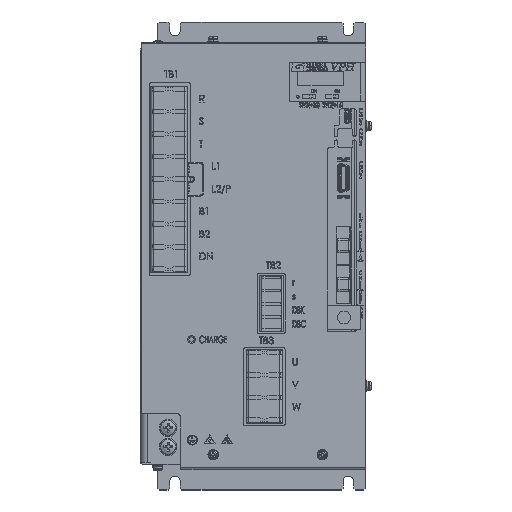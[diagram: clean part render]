
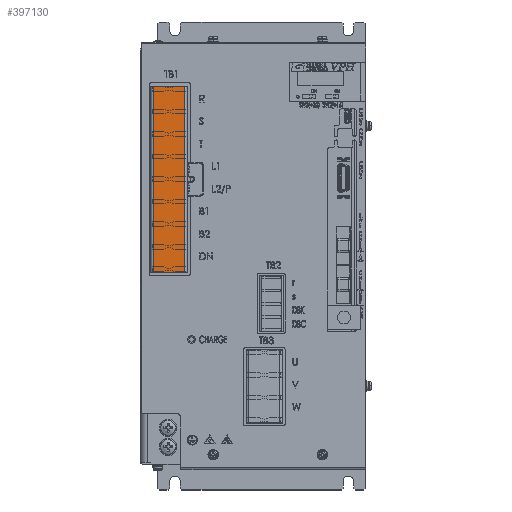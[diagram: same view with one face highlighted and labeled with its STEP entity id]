
A CAD part, top view. The second image highlights one B-rep face of the part: STEP entity #397130.
In plain terms, the highlighted planar face has unit normal (0, 0, 1).
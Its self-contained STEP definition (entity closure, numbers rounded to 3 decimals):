
#2342 = CARTESIAN_POINT ( 'NONE',  ( -67.929, 107.754, 475.8 ) ) ;
#15656 = LINE ( 'NONE', #72575, #339163 ) ;
#17015 = EDGE_LOOP ( 'NONE', ( #196374, #284597, #344088, #53413 ) ) ;
#37791 = LINE ( 'NONE', #314208, #355437 ) ;
#38941 = CARTESIAN_POINT ( 'NONE',  ( -49.829, 0.354, 475.8 ) ) ;
#47235 = CARTESIAN_POINT ( 'NONE',  ( -49.829, 107.754, 475.8 ) ) ;
#53413 = ORIENTED_EDGE ( 'NONE', *, *, #191755, .T. ) ;
#54861 = VERTEX_POINT ( 'NONE', #2342 ) ;
#72575 = CARTESIAN_POINT ( 'NONE',  ( -67.929, 0.354, 475.8 ) ) ;
#107780 = DIRECTION ( 'NONE',  ( 0., -1., 0. ) ) ;
#116207 = DIRECTION ( 'NONE',  ( 0., -1., 0. ) ) ;
#133486 = CARTESIAN_POINT ( 'NONE',  ( -49.829, 107.754, 475.8 ) ) ;
#146597 = LINE ( 'NONE', #147244, #410762 ) ;
#147244 = CARTESIAN_POINT ( 'NONE',  ( -67.929, 107.754, 475.8 ) ) ;
#167946 = DIRECTION ( 'NONE',  ( 0., 0., -1. ) ) ;
#182063 = DIRECTION ( 'NONE',  ( 1., 0., 0. ) ) ;
#191755 = EDGE_CURVE ( 'NONE', #54861, #364643, #37791, .T. ) ;
#196374 = ORIENTED_EDGE ( 'NONE', *, *, #241906, .T. ) ;
#212515 = CARTESIAN_POINT ( 'NONE',  ( -67.929, 0.354, 475.8 ) ) ;
#214214 = CARTESIAN_POINT ( 'NONE',  ( -49.829, 107.754, 475.8 ) ) ;
#241906 = EDGE_CURVE ( 'NONE', #364643, #254818, #15656, .T. ) ;
#247698 = EDGE_CURVE ( 'NONE', #316507, #254818, #395849, .T. ) ;
#254818 = VERTEX_POINT ( 'NONE', #38941 ) ;
#268596 = AXIS2_PLACEMENT_3D ( 'NONE', #133486, #167946, #409130 ) ;
#279350 = EDGE_CURVE ( 'NONE', #54861, #316507, #146597, .T. ) ;
#284597 = ORIENTED_EDGE ( 'NONE', *, *, #247698, .F. ) ;
#284625 = FACE_OUTER_BOUND ( 'NONE', #17015, .T. ) ;
#305371 = PLANE ( 'NONE',  #268596 ) ;
#314208 = CARTESIAN_POINT ( 'NONE',  ( -67.929, 107.754, 475.8 ) ) ;
#316507 = VERTEX_POINT ( 'NONE', #47235 ) ;
#339163 = VECTOR ( 'NONE', #339279, 1000. ) ;
#339279 = DIRECTION ( 'NONE',  ( 1., 0., 0. ) ) ;
#344088 = ORIENTED_EDGE ( 'NONE', *, *, #279350, .F. ) ;
#347470 = VECTOR ( 'NONE', #116207, 1000. ) ;
#355437 = VECTOR ( 'NONE', #107780, 1000. ) ;
#364643 = VERTEX_POINT ( 'NONE', #212515 ) ;
#395849 = LINE ( 'NONE', #214214, #347470 ) ;
#397130 = ADVANCED_FACE ( 'NONE', ( #284625 ), #305371, .F. ) ;
#409130 = DIRECTION ( 'NONE',  ( -1., 0., 0. ) ) ;
#410762 = VECTOR ( 'NONE', #182063, 1000. ) ;
